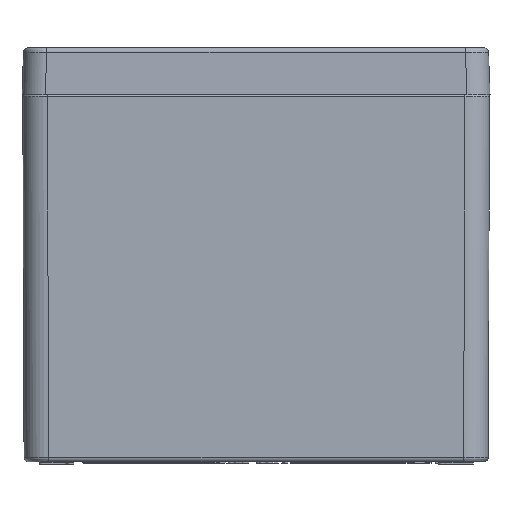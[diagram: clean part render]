
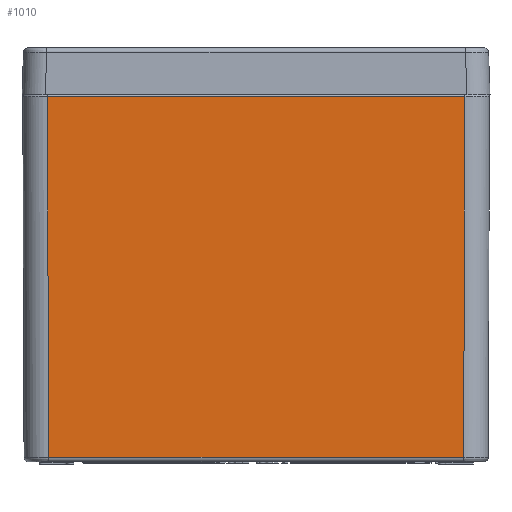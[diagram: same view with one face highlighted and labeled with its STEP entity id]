
A CAD part, left-side view. The second image highlights one B-rep face of the part: STEP entity #1010.
In plain terms, the highlighted planar face has unit normal (-1, 0, -0.004).
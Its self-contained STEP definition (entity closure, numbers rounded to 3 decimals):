
#654 = ORIENTED_EDGE ( 'NONE', *, *, #3803, .F. ) ;
#1010 = ADVANCED_FACE ( 'NONE', ( #51453 ), #54595, .F. ) ;
#3164 = LINE ( 'NONE', #66853, #41415 ) ;
#3803 = EDGE_CURVE ( 'NONE', #64708, #51832, #3164, .T. ) ;
#5746 = ORIENTED_EDGE ( 'NONE', *, *, #60686, .F. ) ;
#10231 = EDGE_LOOP ( 'NONE', ( #62155, #654, #66109, #5746 ) ) ;
#12382 = VERTEX_POINT ( 'NONE', #34953 ) ;
#15189 = EDGE_CURVE ( 'NONE', #51832, #55842, #17194, .T. ) ;
#17194 = LINE ( 'NONE', #19459, #56991 ) ;
#17330 = DIRECTION ( 'NONE',  ( 0., -1., 0. ) ) ;
#17776 = CARTESIAN_POINT ( 'NONE',  ( -116.196, 0., -1.003 ) ) ;
#18488 = DIRECTION ( 'NONE',  ( 1., 0., 0.003 ) ) ;
#19459 = CARTESIAN_POINT ( 'NONE',  ( -115.651, 89.901, -157.207 ) ) ;
#28651 = CARTESIAN_POINT ( 'NONE',  ( -115.651, 89.901, -157.207 ) ) ;
#33162 = CARTESIAN_POINT ( 'NONE',  ( -115.651, -89.901, -157.207 ) ) ;
#34340 = VECTOR ( 'NONE', #66135, 1000. ) ;
#34424 = LINE ( 'NONE', #55429, #34340 ) ;
#34953 = CARTESIAN_POINT ( 'NONE',  ( -116.196, -90.447, -1.003 ) ) ;
#39899 = DIRECTION ( 'NONE',  ( -0.003, 0.003, 1. ) ) ;
#41252 = VECTOR ( 'NONE', #17330, 1000. ) ;
#41415 = VECTOR ( 'NONE', #55724, 1000. ) ;
#44187 = DIRECTION ( 'NONE',  ( 0.003, 0., -1. ) ) ;
#48969 = CARTESIAN_POINT ( 'NONE',  ( -116.2, 0., 0. ) ) ;
#51453 = FACE_OUTER_BOUND ( 'NONE', #10231, .T. ) ;
#51832 = VERTEX_POINT ( 'NONE', #28651 ) ;
#54208 = LINE ( 'NONE', #17776, #41252 ) ;
#54595 = PLANE ( 'NONE',  #61384 ) ;
#55429 = CARTESIAN_POINT ( 'NONE',  ( -115.922, -90.172, -79.6 ) ) ;
#55583 = EDGE_CURVE ( 'NONE', #12382, #64708, #34424, .T. ) ;
#55724 = DIRECTION ( 'NONE',  ( 0., 1., 0. ) ) ;
#55842 = VERTEX_POINT ( 'NONE', #62684 ) ;
#56991 = VECTOR ( 'NONE', #39899, 1000. ) ;
#60686 = EDGE_CURVE ( 'NONE', #55842, #12382, #54208, .T. ) ;
#61384 = AXIS2_PLACEMENT_3D ( 'NONE', #48969, #18488, #44187 ) ;
#62155 = ORIENTED_EDGE ( 'NONE', *, *, #15189, .F. ) ;
#62684 = CARTESIAN_POINT ( 'NONE',  ( -116.196, 90.447, -1.003 ) ) ;
#64708 = VERTEX_POINT ( 'NONE', #33162 ) ;
#66109 = ORIENTED_EDGE ( 'NONE', *, *, #55583, .F. ) ;
#66135 = DIRECTION ( 'NONE',  ( 0.003, 0.003, -1. ) ) ;
#66853 = CARTESIAN_POINT ( 'NONE',  ( -115.651, 0.16, -157.207 ) ) ;
